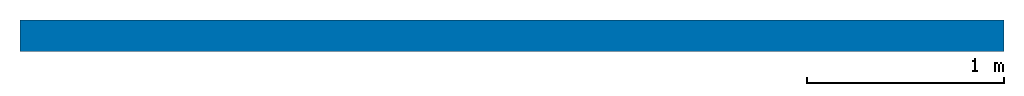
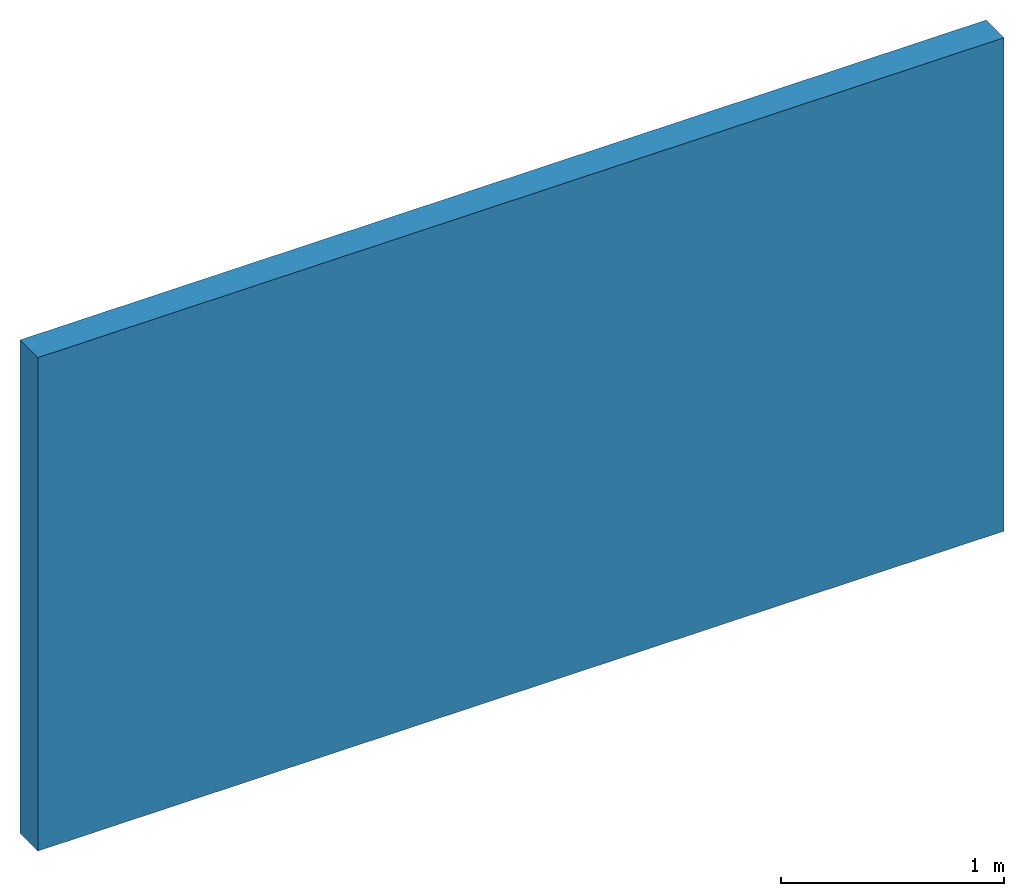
# One storey: 1 wall.
"""IFC2X3 building model written with IfcOpenShell, lengths in metres."""

from ifc_helpers import new_model, entity, si_unit, converted_unit, direction, frame, origin, origin_with_axes, place, context, subcontext, project, spatial, polyline, outline, extrude, material, layer, layer_set, layer_usage, type_object, element, save


model = new_model("IFC2X3")

# Units and contexts
model_context = context("Model", 3, precision=5e-09, world=origin(), true_north=direction((6.12323399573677e-17, 1.0, 0.0)))
body_context = subcontext(model_context, "Body", "Model", "MODEL_VIEW")
ifc_project = project(units=[converted_unit("PLANEANGLEUNIT", "degree", entity("IfcReal", 0.0174532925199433), si_unit("PLANEANGLEUNIT", "RADIAN"), dimensions=[0, 0, 0, 0, 0, 0, 0]), si_unit("LENGTHUNIT", "METRE"), si_unit("AREAUNIT", "SQUARE_METRE"), si_unit("VOLUMEUNIT", "CUBIC_METRE")], contexts=[model_context])

# Site, building, storey
site_placement = place(None, origin_with_axes())
site = spatial("IfcSite", under=ifc_project, at=site_placement, Name="Site", CompositionType="ELEMENT")
building_placement = place(site_placement, origin_with_axes())
building = spatial("IfcBuilding", under=site, at=building_placement, Name="Architettura", CompositionType="ELEMENT")
storey_placement = place(None, origin_with_axes())
storey = spatial("IfcBuildingStorey", under=building, at=storey_placement, Name="Piano Terra", CompositionType="ELEMENT", Elevation=0.0)

# Wall
ifc_material_1 = material(Name="Pannelli di sughero espanso con leganti (130 kg/m³)")
ifc_layer_1 = layer(ifc_material_1, 0.1)
ifc_material_2 = material(Name="X-lam Wall")
ifc_layer_2 = layer(ifc_material_2, 0.06)
ifc_layer_set = layer_set([ifc_layer_1, ifc_layer_2])
ifc_layer_usage = layer_usage(ifc_layer_set, "AXIS2", "POSITIVE", 0.0)
wall_type = type_object("IfcWallType", Name="Università\\PLES\\Wall_CLT60_Sughero", PredefinedType="NOTDEFINED")
wall_placement = place(storey_placement, frame((3.49813432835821, 3.63477611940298, 0.0), z_axis=(0.0, 0.0, 1.0), x_axis=(-1.0, 0.0, 0.0)))
element("IfcWallStandardCase", 1, at=wall_placement, inside=storey, type_object=wall_type, material=ifc_layer_usage, Name="Wall 1", ObjectType="Università\\PLES\\Wall_CLT60_Sughero", context=body_context, shape_type="SweptSolid", body=[
    extrude(outline(polyline([(-1.50186567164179, 3.63477611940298), (3.49813432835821, 3.63477611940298), (3.49813432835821, 3.79477611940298), (-1.50186567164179, 3.79477611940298), (-1.50186567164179, 3.63477611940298)])), frame((3.49813432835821, 3.63477611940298, 0.0), z_axis=(0.0, 0.0, 1.0), x_axis=(-1.0, 0.0, 0.0)), (0.0, 0.0, 1.0), 2.7),
])

save(model, "model.ifc")
